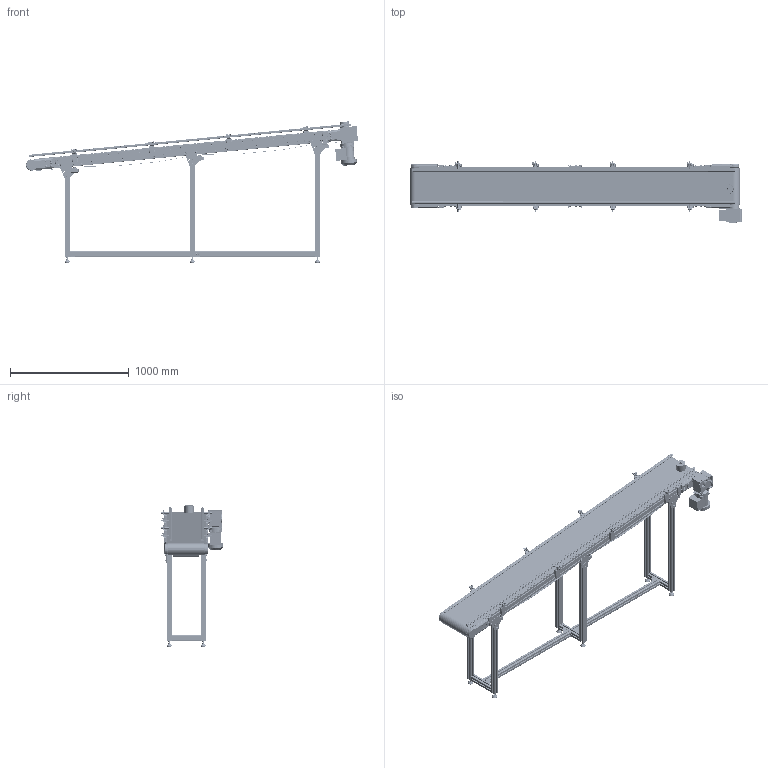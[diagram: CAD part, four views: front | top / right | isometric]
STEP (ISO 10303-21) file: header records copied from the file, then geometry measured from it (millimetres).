
FILE_DESCRIPTION(/* description */ ('STEP AP214'),/* implementation_level */ '2;1');
FILE_NAME(/* name */ 'C:\Users\admin\Desktop\inventor\nastro trasportatore\step\nastro_trasportatore_serie_90.stp',/* time_stamp */ '2021-08-26T11:10:35+02:00',/* author */ ('admin'),/* organization */ (''),/* preprocessor_version */ 'ST-DEVELOPER v18.1',/* originating_system */ 'Autodesk Inventor 2022',/* authorisation */ ' ');
FILE_SCHEMA (('AUTOMOTIVE_DESIGN { 1 0 10303 214 3 1 1 }'));
Products named in the file (258): Configuration conveyor (Serie 90); 2019_08_13__11-59-59-207; 2019_08_13__11-59-59-207_1; 2019_08_13__11-59-59-207_2; 2019_08_13__11-59-59-207_3; 2019_08_13__11-59-59-207_4; 2019_08_13__11-59-59-207_5; 2019_08_13__11-59-59-207_6; 2019_08_13__11-59-59-207_7; 2019_08_13__11-59-59-207_8; 2019_08_13__11-59-59-207_9; 2019_08_13__11-59-59-207_10; 2019_08_13__11-59-59-207_11; 2019_08_13__11-59-59-207_12; 2019_08_13__11-59-59-207_13; 2019_08_13__11-59-59-207_14; 2019_08_13__11-59-59-207_15; 2019_08_13__11-59-59-207_16; 2019_08_13__11-59-59-207_17; 2019_08_13__11-59-59-207_18; 2019_08_13__11-59-59-207_19; 2019_08_13__11-59-59-207_20; 2019_08_13__11-59-59-207_21; 2019_08_13__11-59-59-207_22; 2019_08_13__11-59-59-207_23; 2019_08_13__11-59-59-207_24; 2019_08_13__11-59-59-207_25; 2019_08_13__11-59-59-207_26; 2019_08_13__11-59-59-207_27; 2019_08_13__11-59-59-207_28; 2019_08_13__11-59-59-207_29; 2019_08_13__11-59-59-207_30; 2019_08_13__11-59-59-207_31; 2019_08_13__11-59-59-207_32; 2019_08_13__11-59-59-207_33; 2019_08_13__11-59-59-207_34; 2019_08_13__11-59-59-207_35; 2019_08_13__11-59-59-207_36; 2019_08_13__11-59-59-207_37; 2019_08_13__11-59-59-207_38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
Assembly tree (305 placements, depth 2):
  Configuration conveyor (Serie 90)
    2019_08_13__11-59-59-207
    2019_08_13__11-59-59-207_1
    2019_08_13__11-59-59-207_2
    2019_08_13__11-59-59-207_3
    2019_08_13__11-59-59-207_4
    2019_08_13__11-59-59-207_5
    2019_08_13__11-59-59-207_6
    2019_08_13__11-59-59-207_7
    2019_08_13__11-59-59-207_8
    2019_08_13__11-59-59-207_9
    2019_08_13__11-59-59-207_10
    2019_08_13__11-59-59-207_11
    2019_08_13__11-59-59-207_12
    2019_08_13__11-59-59-207_13
    2019_08_13__11-59-59-207_14
    2019_08_13__11-59-59-207_15
    2019_08_13__11-59-59-207_16
    2019_08_13__11-59-59-207_17
    2019_08_13__11-59-59-207_18
    2019_08_13__11-59-59-207_19
    2019_08_13__11-59-59-207_20
    2019_08_13__11-59-59-207_21
    2019_08_13__11-59-59-207_22
    2019_08_13__11-59-59-207_23
    2019_08_13__11-59-59-207_24
    2019_08_13__11-59-59-207_25
    2019_08_13__11-59-59-207_26
    2019_08_13__11-59-59-207_27
    2019_08_13__11-59-59-207_28
    2019_08_13__11-59-59-207_29
    2019_08_13__11-59-59-207_30
    2019_08_13__11-59-59-207_31
    2019_08_13__11-59-59-207_32
    2019_08_13__11-59-59-207_33
    2019_08_13__11-59-59-207_34
    2019_08_13__11-59-59-207_35
    2019_08_13__11-59-59-207_36
    2019_08_13__11-59-59-207_37
    2019_08_13__11-59-59-207_38
    2019_08_13__11-59-59-207_39
    2019_08_13__11-59-59-207_40
    2019_08_13__11-59-59-207_41
    2019_08_13__11-59-59-207_42
    2019_08_13__11-59-59-207_43
    2019_08_13__11-59-59-207_44
    2019_08_13__11-59-59-207_45
    2019_08_13__11-59-59-207_46
    2019_08_13__11-59-59-207_47
    2019_08_13__11-59-59-207_48
    2019_08_13__11-59-59-207_49
    2019_08_13__11-59-59-207_50
    2019_08_13__11-59-59-207_51
    2019_08_13__11-59-59-207_52
    2019_08_13__11-59-59-207_53
    2019_08_13__11-59-59-207_54
    2019_08_13__11-59-59-207_55
    2019_08_13__11-59-59-207_56
    2019_08_13__11-59-59-207_57
    2019_08_13__11-59-59-207_58
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Bounding box: 2797.46 x 528 x 1191.82 mm (x, y, z)
Volume: 31470059.4 mm3; surface area: 17485029.9 mm2
Topology: 305 solids, 311 shells, 12039 faces, 30833 edges, 19663 vertices
Faces by surface type: plane 6833, cylinder 3689, cone 599, torus 434, sphere 328, bspline 156
Full cylindrical faces by diameter (mm): 4.92 x8, 6 x20, 6.4 x24, 6.5 x16, 6.6 x4, 6.64 x14, 8 x229, 8.3 x6, 8.4 x32, 8.5 x18, 8.6 x12, 9 x68, 12 x14, 13 x82, 14 x6, 15 x50, 16 x6, 17 x38, 20 x2, 20.5 x8, 25 x16, 28 x1, 28.413 x6, 30 x6, 33 x4, 33.1 x4, 43.6 x6, 44.9 x4, 46 x13, 49.5 x6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
Entity records: 318292 total; most frequent: CARTESIAN_POINT 61520, DIRECTION 52654, ORIENTED_EDGE 50522, EDGE_CURVE 25261, AXIS2_PLACEMENT_3D 18600, VERTEX_POINT 16427, LINE 15454, VECTOR 15454
